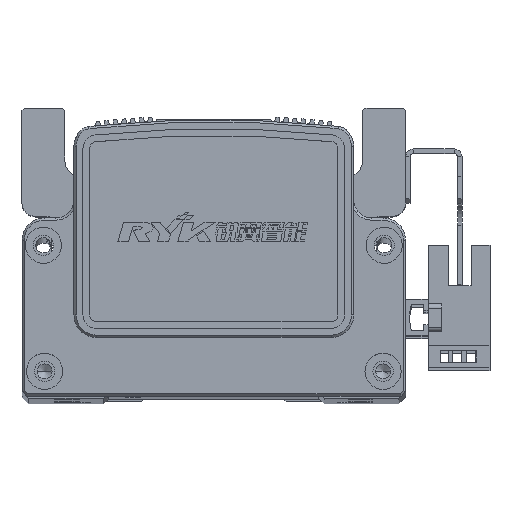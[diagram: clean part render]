
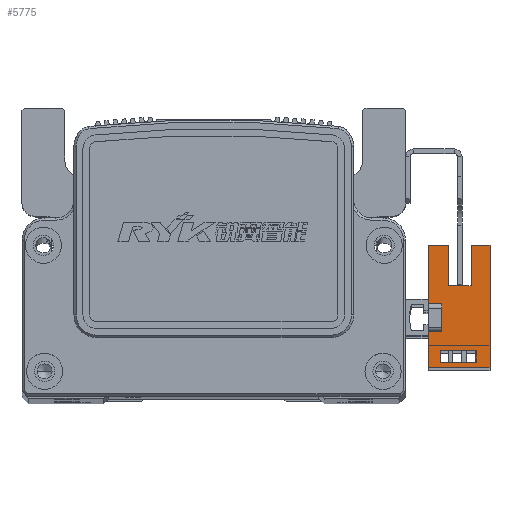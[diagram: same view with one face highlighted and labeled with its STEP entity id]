
A CAD part, top view. The second image highlights one B-rep face of the part: STEP entity #5775.
In plain terms, the highlighted planar face has unit normal (0, 0, 1) as drawn and (1, 0, 0) by its records, which use the part's own axes.
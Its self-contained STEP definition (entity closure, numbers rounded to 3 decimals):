
#5775 = ADVANCED_FACE ( 'NONE', ( #37459, #37428 ), #17732, .T. ) ;
#17682 = CARTESIAN_POINT ( 'NONE',  ( 3.2, 16.1, -10.7 ) ) ;
#17696 = DIRECTION ( 'NONE',  ( 0., 1., 0. ) ) ;
#17726 = DIRECTION ( 'NONE',  ( 1., 0., 0. ) ) ;
#17732 = PLANE ( 'NONE',  #38723 ) ;
#18741 = VECTOR ( 'NONE', #19917, 1000. ) ;
#18857 = LINE ( 'NONE', #19916, #18741 ) ;
#18891 = LINE ( 'NONE', #20041, #18906 ) ;
#18902 = LINE ( 'NONE', #20073, #18977 ) ;
#18906 = VECTOR ( 'NONE', #20074, 1000. ) ;
#18911 = VECTOR ( 'NONE', #20048, 1000. ) ;
#18938 = LINE ( 'NONE', #20055, #18943 ) ;
#18939 = VECTOR ( 'NONE', #20056, 1000. ) ;
#18943 = VECTOR ( 'NONE', #20062, 1000. ) ;
#18946 = LINE ( 'NONE', #20038, #18911 ) ;
#18964 = LINE ( 'NONE', #20067, #18981 ) ;
#18972 = LINE ( 'NONE', #20069, #18939 ) ;
#18977 = VECTOR ( 'NONE', #20063, 1000. ) ;
#18981 = VECTOR ( 'NONE', #20071, 1000. ) ;
#18983 = LINE ( 'NONE', #20140, #19041 ) ;
#19014 = LINE ( 'NONE', #20128, #19027 ) ;
#19021 = LINE ( 'NONE', #20144, #19086 ) ;
#19027 = VECTOR ( 'NONE', #20160, 1000. ) ;
#19041 = VECTOR ( 'NONE', #20158, 1000. ) ;
#19048 = VECTOR ( 'NONE', #20172, 1000. ) ;
#19067 = VECTOR ( 'NONE', #20194, 1000. ) ;
#19077 = LINE ( 'NONE', #20190, #19067 ) ;
#19086 = VECTOR ( 'NONE', #20125, 1000. ) ;
#19094 = LINE ( 'NONE', #20187, #19048 ) ;
#19118 = VECTOR ( 'NONE', #20291, 1000. ) ;
#19121 = LINE ( 'NONE', #20215, #19218 ) ;
#19154 = LINE ( 'NONE', #20257, #19118 ) ;
#19218 = VECTOR ( 'NONE', #20245, 1000. ) ;
#19280 = LINE ( 'NONE', #20293, #19292 ) ;
#19289 = VECTOR ( 'NONE', #20310, 1000. ) ;
#19292 = VECTOR ( 'NONE', #20313, 1000. ) ;
#19296 = LINE ( 'NONE', #20309, #19289 ) ;
#19916 = CARTESIAN_POINT ( 'NONE',  ( 3.2, 16.1, 3. ) ) ;
#19917 = DIRECTION ( 'NONE',  ( 0., 1., 0. ) ) ;
#20038 = CARTESIAN_POINT ( 'NONE',  ( 3.2, 25.1, -1.5 ) ) ;
#20041 = CARTESIAN_POINT ( 'NONE',  ( 3.2, -11.1, 3. ) ) ;
#20048 = DIRECTION ( 'NONE',  ( 0., 1., 0. ) ) ;
#20055 = CARTESIAN_POINT ( 'NONE',  ( 3.2, 16.1, 3. ) ) ;
#20056 = DIRECTION ( 'NONE',  ( 0., -1., 0. ) ) ;
#20062 = DIRECTION ( 'NONE',  ( 0., 1., 0. ) ) ;
#20063 = DIRECTION ( 'NONE',  ( 0., 0., 1. ) ) ;
#20067 = CARTESIAN_POINT ( 'NONE',  ( 3.2, 3.1, 3. ) ) ;
#20069 = CARTESIAN_POINT ( 'NONE',  ( 3.2, 16.1, 0.3 ) ) ;
#20071 = DIRECTION ( 'NONE',  ( 0., 0., 1. ) ) ;
#20073 = CARTESIAN_POINT ( 'NONE',  ( 3.2, 16.1, -10.7 ) ) ;
#20074 = DIRECTION ( 'NONE',  ( 0., 0., 1. ) ) ;
#20125 = DIRECTION ( 'NONE',  ( 0., 0., 1. ) ) ;
#20128 = CARTESIAN_POINT ( 'NONE',  ( 3.2, 16.1, -10.7 ) ) ;
#20140 = CARTESIAN_POINT ( 'NONE',  ( 3.2, 16.1, -10.7 ) ) ;
#20144 = CARTESIAN_POINT ( 'NONE',  ( 3.2, 7.1, -6.5 ) ) ;
#20158 = DIRECTION ( 'NONE',  ( 0., 0., 1. ) ) ;
#20160 = DIRECTION ( 'NONE',  ( 0., 1., 0. ) ) ;
#20172 = DIRECTION ( 'NONE',  ( 0., 0., -1. ) ) ;
#20187 = CARTESIAN_POINT ( 'NONE',  ( 3.2, -3.1, 3. ) ) ;
#20190 = CARTESIAN_POINT ( 'NONE',  ( 3.2, 25.1, -6.5 ) ) ;
#20194 = DIRECTION ( 'NONE',  ( 0., -1., 0. ) ) ;
#20215 = CARTESIAN_POINT ( 'NONE',  ( 3.2, 0., 0. ) ) ;
#20245 = DIRECTION ( 'NONE',  ( 0., 1., 0. ) ) ;
#20257 = CARTESIAN_POINT ( 'NONE',  ( 3.2, 16.1, -7.7 ) ) ;
#20291 = DIRECTION ( 'NONE',  ( 0., 1., 0. ) ) ;
#20293 = CARTESIAN_POINT ( 'NONE',  ( 3.2, -9.83, -10.7 ) ) ;
#20309 = CARTESIAN_POINT ( 'NONE',  ( 3.2, -7.33, -10.7 ) ) ;
#20310 = DIRECTION ( 'NONE',  ( 0., 0., 1. ) ) ;
#20313 = DIRECTION ( 'NONE',  ( 0., 0., -1. ) ) ;
#32176 = CARTESIAN_POINT ( 'NONE',  ( 3.2, -3.1, 0. ) ) ;
#32209 = CARTESIAN_POINT ( 'NONE',  ( 3.2, 7.1, -6.5 ) ) ;
#32213 = CARTESIAN_POINT ( 'NONE',  ( 3.2, -11.1, -10.7 ) ) ;
#32230 = CARTESIAN_POINT ( 'NONE',  ( 3.2, -7.33, -7.7 ) ) ;
#32246 = CARTESIAN_POINT ( 'NONE',  ( 3.2, 16.1, -1.5 ) ) ;
#32247 = CARTESIAN_POINT ( 'NONE',  ( 3.2, -7.33, 0.3 ) ) ;
#32253 = CARTESIAN_POINT ( 'NONE',  ( 3.2, -9.83, 0.3 ) ) ;
#32257 = CARTESIAN_POINT ( 'NONE',  ( 3.2, 16.1, 3. ) ) ;
#32265 = CARTESIAN_POINT ( 'NONE',  ( 3.2, 3.1, 0. ) ) ;
#32280 = CARTESIAN_POINT ( 'NONE',  ( 3.2, -3.1, 3. ) ) ;
#32283 = CARTESIAN_POINT ( 'NONE',  ( 3.2, -9.83, -7.7 ) ) ;
#32297 = CARTESIAN_POINT ( 'NONE',  ( 3.2, -11.1, 3. ) ) ;
#32300 = CARTESIAN_POINT ( 'NONE',  ( 3.2, 16.1, -6.5 ) ) ;
#32307 = CARTESIAN_POINT ( 'NONE',  ( 3.2, 16.1, -10.7 ) ) ;
#32319 = CARTESIAN_POINT ( 'NONE',  ( 3.2, 7.1, -1.5 ) ) ;
#32334 = CARTESIAN_POINT ( 'NONE',  ( 3.2, 3.1, 3. ) ) ;
#37428 = FACE_BOUND ( 'NONE', #39279, .T. ) ;
#37459 = FACE_OUTER_BOUND ( 'NONE', #39233, .T. ) ;
#37802 = VERTEX_POINT ( 'NONE', #32209 ) ;
#37826 = VERTEX_POINT ( 'NONE', #32176 ) ;
#37828 = VERTEX_POINT ( 'NONE', #32247 ) ;
#37830 = VERTEX_POINT ( 'NONE', #32253 ) ;
#37842 = VERTEX_POINT ( 'NONE', #32213 ) ;
#37845 = VERTEX_POINT ( 'NONE', #32257 ) ;
#37861 = VERTEX_POINT ( 'NONE', #32246 ) ;
#37863 = VERTEX_POINT ( 'NONE', #32265 ) ;
#37866 = VERTEX_POINT ( 'NONE', #32230 ) ;
#38358 = VERTEX_POINT ( 'NONE', #32307 ) ;
#38384 = VERTEX_POINT ( 'NONE', #32297 ) ;
#38394 = VERTEX_POINT ( 'NONE', #32300 ) ;
#38438 = VERTEX_POINT ( 'NONE', #32319 ) ;
#38447 = VERTEX_POINT ( 'NONE', #32334 ) ;
#38452 = VERTEX_POINT ( 'NONE', #32280 ) ;
#38455 = VERTEX_POINT ( 'NONE', #32283 ) ;
#38723 = AXIS2_PLACEMENT_3D ( 'NONE', #17682, #17726, #17696 ) ;
#39233 = EDGE_LOOP ( 'NONE', ( #39496, #50699, #51816, #50679, #51810, #39329, #51776, #51813, #50691, #39444, #51780, #39475 ) ) ;
#39279 = EDGE_LOOP ( 'NONE', ( #39318, #39483, #39490, #39359 ) ) ;
#39318 = ORIENTED_EDGE ( 'NONE', *, *, #45478, .F. ) ;
#39329 = ORIENTED_EDGE ( 'NONE', *, *, #45480, .F. ) ;
#39359 = ORIENTED_EDGE ( 'NONE', *, *, #45574, .F. ) ;
#39444 = ORIENTED_EDGE ( 'NONE', *, *, #45469, .F. ) ;
#39475 = ORIENTED_EDGE ( 'NONE', *, *, #45507, .T. ) ;
#39483 = ORIENTED_EDGE ( 'NONE', *, *, #45581, .F. ) ;
#39490 = ORIENTED_EDGE ( 'NONE', *, *, #45558, .F. ) ;
#39496 = ORIENTED_EDGE ( 'NONE', *, *, #45525, .T. ) ;
#45444 = EDGE_CURVE ( 'NONE', #38384, #38452, #18857, .T. ) ;
#45468 = EDGE_CURVE ( 'NONE', #38438, #37861, #18946, .T. ) ;
#45469 = EDGE_CURVE ( 'NONE', #37842, #38384, #18891, .T. ) ;
#45472 = EDGE_CURVE ( 'NONE', #38447, #37845, #18938, .T. ) ;
#45477 = EDGE_CURVE ( 'NONE', #37861, #37845, #18902, .T. ) ;
#45478 = EDGE_CURVE ( 'NONE', #37828, #37830, #18972, .T. ) ;
#45480 = EDGE_CURVE ( 'NONE', #37863, #38447, #18964, .T. ) ;
#45505 = EDGE_CURVE ( 'NONE', #37842, #38358, #19014, .T. ) ;
#45507 = EDGE_CURVE ( 'NONE', #38358, #38394, #18983, .T. ) ;
#45511 = EDGE_CURVE ( 'NONE', #37802, #38438, #19021, .T. ) ;
#45525 = EDGE_CURVE ( 'NONE', #38394, #37802, #19077, .T. ) ;
#45526 = EDGE_CURVE ( 'NONE', #38452, #37826, #19094, .T. ) ;
#45541 = EDGE_CURVE ( 'NONE', #37826, #37863, #19121, .T. ) ;
#45558 = EDGE_CURVE ( 'NONE', #38455, #37866, #19154, .T. ) ;
#45574 = EDGE_CURVE ( 'NONE', #37830, #38455, #19280, .T. ) ;
#45581 = EDGE_CURVE ( 'NONE', #37866, #37828, #19296, .T. ) ;
#50679 = ORIENTED_EDGE ( 'NONE', *, *, #45477, .T. ) ;
#50691 = ORIENTED_EDGE ( 'NONE', *, *, #45444, .F. ) ;
#50699 = ORIENTED_EDGE ( 'NONE', *, *, #45511, .T. ) ;
#51776 = ORIENTED_EDGE ( 'NONE', *, *, #45541, .F. ) ;
#51780 = ORIENTED_EDGE ( 'NONE', *, *, #45505, .T. ) ;
#51810 = ORIENTED_EDGE ( 'NONE', *, *, #45472, .F. ) ;
#51813 = ORIENTED_EDGE ( 'NONE', *, *, #45526, .F. ) ;
#51816 = ORIENTED_EDGE ( 'NONE', *, *, #45468, .T. ) ;
